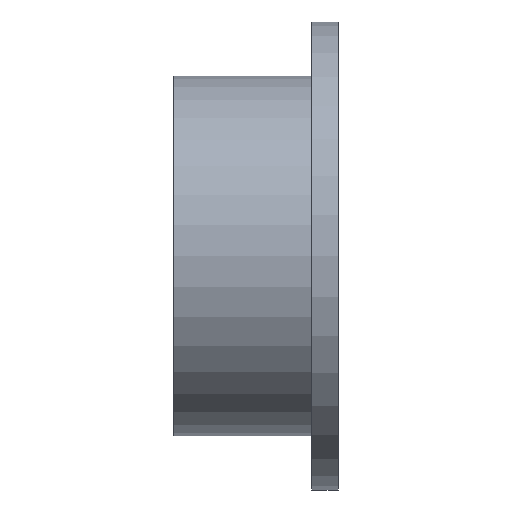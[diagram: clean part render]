
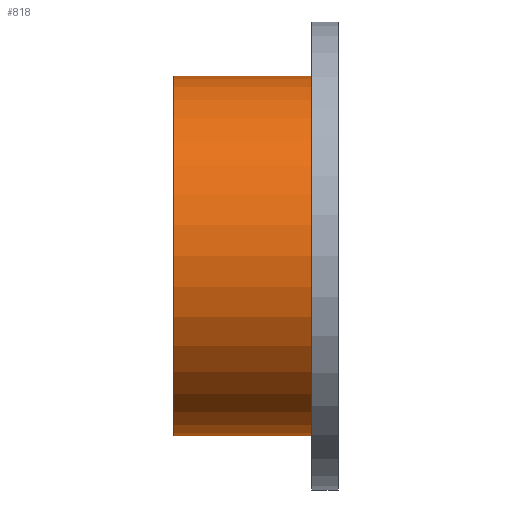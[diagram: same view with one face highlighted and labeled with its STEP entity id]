
A CAD part, left-side view. The second image highlights one B-rep face of the part: STEP entity #818.
In plain terms, the highlighted cylindrical face has radius 109.5 mm (diameter 219 mm), a partial arc.
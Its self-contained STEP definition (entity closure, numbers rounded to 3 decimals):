
#77 = EDGE_LOOP ( 'NONE', ( #232, #285, #240, #174 ) ) ;
#98 = AXIS2_PLACEMENT_3D ( 'NONE', #813, #1232, #1345 ) ;
#109 = CARTESIAN_POINT ( 'NONE',  ( 0., 100., 0. ) ) ;
#168 = CARTESIAN_POINT ( 'NONE',  ( 0., 0., 109.5 ) ) ;
#169 = AXIS2_PLACEMENT_3D ( 'NONE', #343, #1178, #557 ) ;
#174 = ORIENTED_EDGE ( 'NONE', *, *, #1244, .F. ) ;
#232 = ORIENTED_EDGE ( 'NONE', *, *, #245, .F. ) ;
#240 = ORIENTED_EDGE ( 'NONE', *, *, #1053, .T. ) ;
#245 = EDGE_CURVE ( 'NONE', #1338, #421, #1221, .T. ) ;
#251 = VERTEX_POINT ( 'NONE', #485 ) ;
#281 = VERTEX_POINT ( 'NONE', #1333 ) ;
#285 = ORIENTED_EDGE ( 'NONE', *, *, #311, .T. ) ;
#311 = EDGE_CURVE ( 'NONE', #1338, #281, #1023, .T. ) ;
#327 = LINE ( 'NONE', #958, #496 ) ;
#343 = CARTESIAN_POINT ( 'NONE',  ( 0., 10., 0. ) ) ;
#394 = VECTOR ( 'NONE', #587, 1000. ) ;
#398 = CYLINDRICAL_SURFACE ( 'NONE', #98, 109.5 ) ;
#421 = VERTEX_POINT ( 'NONE', #444 ) ;
#444 = CARTESIAN_POINT ( 'NONE',  ( 0., 10., 109.5 ) ) ;
#485 = CARTESIAN_POINT ( 'NONE',  ( 0., 10., -109.5 ) ) ;
#496 = VECTOR ( 'NONE', #1286, 1000. ) ;
#533 = DIRECTION ( 'NONE',  ( 0., -1., 0. ) ) ;
#557 = DIRECTION ( 'NONE',  ( 0., 0., -1. ) ) ;
#587 = DIRECTION ( 'NONE',  ( 0., -1., 0. ) ) ;
#749 = DIRECTION ( 'NONE',  ( 0., 0., -1. ) ) ;
#758 = CIRCLE ( 'NONE', #169, 109.5 ) ;
#813 = CARTESIAN_POINT ( 'NONE',  ( 0., 0., 0. ) ) ;
#818 = ADVANCED_FACE ( 'NONE', ( #1331 ), #398, .T. ) ;
#958 = CARTESIAN_POINT ( 'NONE',  ( 0., 0., -109.5 ) ) ;
#1023 = CIRCLE ( 'NONE', #1090, 109.5 ) ;
#1053 = EDGE_CURVE ( 'NONE', #281, #251, #327, .T. ) ;
#1090 = AXIS2_PLACEMENT_3D ( 'NONE', #109, #533, #749 ) ;
#1178 = DIRECTION ( 'NONE',  ( 0., -1., 0. ) ) ;
#1221 = LINE ( 'NONE', #168, #394 ) ;
#1232 = DIRECTION ( 'NONE',  ( 0., -1., 0. ) ) ;
#1244 = EDGE_CURVE ( 'NONE', #421, #251, #758, .T. ) ;
#1286 = DIRECTION ( 'NONE',  ( 0., -1., 0. ) ) ;
#1297 = CARTESIAN_POINT ( 'NONE',  ( 0., 100., 109.5 ) ) ;
#1331 = FACE_OUTER_BOUND ( 'NONE', #77, .T. ) ;
#1333 = CARTESIAN_POINT ( 'NONE',  ( 0., 100., -109.5 ) ) ;
#1338 = VERTEX_POINT ( 'NONE', #1297 ) ;
#1345 = DIRECTION ( 'NONE',  ( 0., 0., -1. ) ) ;
